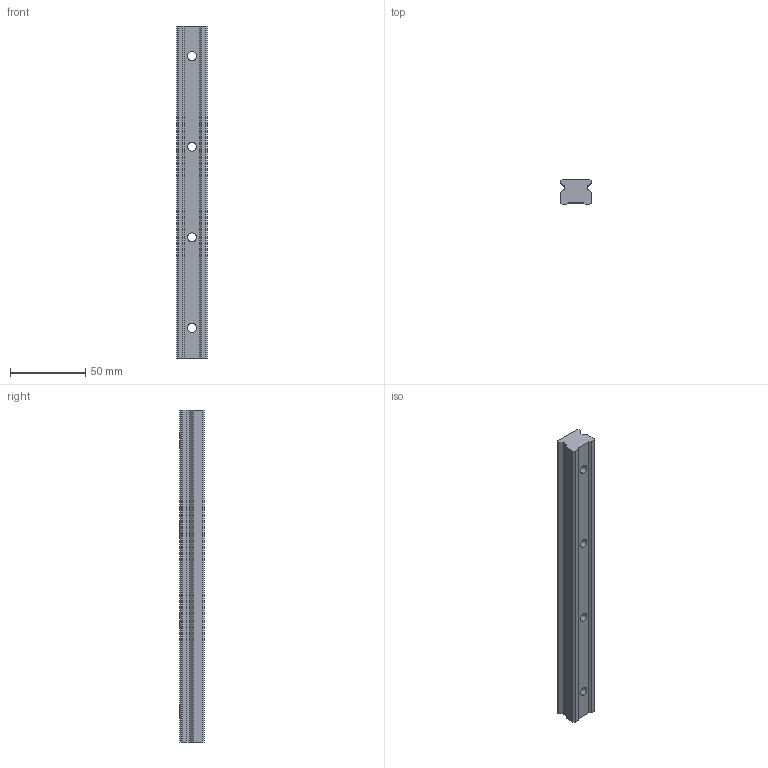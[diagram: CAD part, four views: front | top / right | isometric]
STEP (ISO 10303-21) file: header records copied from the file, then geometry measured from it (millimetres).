
FILE_DESCRIPTION (( 'STEP AP203' ), '1' );
FILE_NAME ('L1016.BL20-0220.step', '2019-06-12T11:45:46', ( '' ), ( '' ), 'SwSTEP 2.0', 'SolidWorks 2017', '' );
FILE_SCHEMA (( 'CONFIG_CONTROL_DESIGN' ));
Length unit declared in the file: millimetre
Products named in the file (1): L1016.BL20-0220
Bounding box: 20 x 16.3 x 220 mm (x, y, z)
Volume: 60908.8 mm3; surface area: 18335.3 mm2
Topology: 1 solids, 1 shells, 46 faces, 120 edges, 80 vertices
Faces by surface type: plane 26, cylinder 20
Entity records: 1517 total; most frequent: DIRECTION 254, CARTESIAN_POINT 247, ORIENTED_EDGE 240, EDGE_CURVE 120, AXIS2_PLACEMENT_3D 87, VERTEX_POINT 80, LINE 80, VECTOR 80
